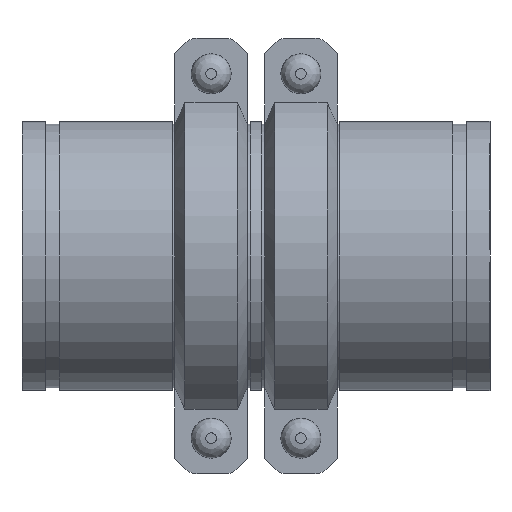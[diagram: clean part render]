
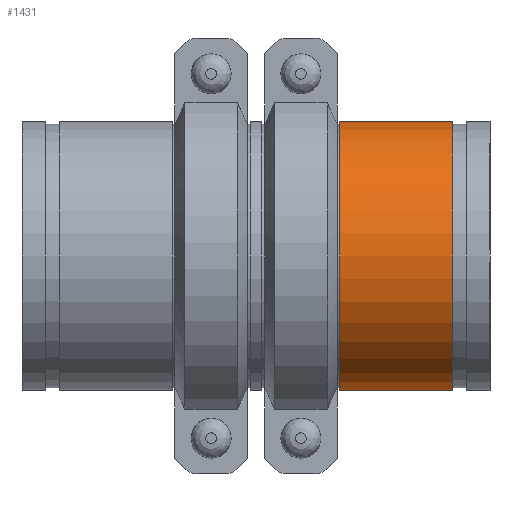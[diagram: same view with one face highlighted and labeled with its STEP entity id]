
A CAD part, front view. The second image highlights one B-rep face of the part: STEP entity #1431.
In plain terms, the highlighted cylindrical face has radius 109.537 mm (diameter 219.075 mm), a full revolution.
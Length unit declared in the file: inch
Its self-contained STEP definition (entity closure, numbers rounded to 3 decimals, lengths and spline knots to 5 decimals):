
#59=LINE('',#2295,#152);
#152=VECTOR('',#1852,4.3125);
#245=CYLINDRICAL_SURFACE('',#1638,4.3125);
#302=FACE_OUTER_BOUND('',#387,.T.);
#387=EDGE_LOOP('',(#940,#941,#942,#943,#944,#945));
#497=CIRCLE('',#1636,4.3125);
#498=CIRCLE('',#1637,4.3125);
#499=CIRCLE('',#1639,4.3125);
#500=CIRCLE('',#1640,4.3125);
#589=VERTEX_POINT('',#2286);
#590=VERTEX_POINT('',#2287);
#591=VERTEX_POINT('',#2291);
#592=VERTEX_POINT('',#2292);
#730=EDGE_CURVE('',#589,#590,#497,.T.);
#731=EDGE_CURVE('',#590,#589,#498,.T.);
#732=EDGE_CURVE('',#591,#592,#499,.T.);
#733=EDGE_CURVE('',#592,#591,#500,.T.);
#734=EDGE_CURVE('',#592,#590,#59,.T.);
#940=ORIENTED_EDGE('',*,*,#732,.F.);
#941=ORIENTED_EDGE('',*,*,#733,.F.);
#942=ORIENTED_EDGE('',*,*,#734,.T.);
#943=ORIENTED_EDGE('',*,*,#731,.T.);
#944=ORIENTED_EDGE('',*,*,#730,.T.);
#945=ORIENTED_EDGE('',*,*,#734,.F.);
#1431=ADVANCED_FACE('',(#302),#245,.T.);
#1636=AXIS2_PLACEMENT_3D('',#2288,#1842,#1843);
#1637=AXIS2_PLACEMENT_3D('',#2289,#1844,#1845);
#1638=AXIS2_PLACEMENT_3D('',#2290,#1846,#1847);
#1639=AXIS2_PLACEMENT_3D('',#2293,#1848,#1849);
#1640=AXIS2_PLACEMENT_3D('',#2294,#1850,#1851);
#1842=DIRECTION('center_axis',(-1.,0.,0.));
#1843=DIRECTION('ref_axis',(0.,0.,1.));
#1844=DIRECTION('center_axis',(-1.,0.,0.));
#1845=DIRECTION('ref_axis',(0.,0.,1.));
#1846=DIRECTION('center_axis',(-1.,0.,0.));
#1847=DIRECTION('ref_axis',(0.,1.,0.));
#1848=DIRECTION('center_axis',(-1.,0.,0.));
#1849=DIRECTION('ref_axis',(0.,0.,1.));
#1850=DIRECTION('center_axis',(-1.,0.,0.));
#1851=DIRECTION('ref_axis',(0.,0.,1.));
#1852=DIRECTION('',(1.,0.,0.));
#2286=CARTESIAN_POINT('',(1.812,4.3125,0.));
#2287=CARTESIAN_POINT('',(1.812,-4.3125,0.));
#2288=CARTESIAN_POINT('Origin',(1.812,0.,0.));
#2289=CARTESIAN_POINT('Origin',(1.812,0.,0.));
#2290=CARTESIAN_POINT('Origin',(0.,0.,
0.));
#2291=CARTESIAN_POINT('',(-1.812,4.3125,0.));
#2292=CARTESIAN_POINT('',(-1.812,-4.3125,0.));
#2293=CARTESIAN_POINT('Origin',(-1.812,0.,0.));
#2294=CARTESIAN_POINT('Origin',(-1.812,0.,0.));
#2295=CARTESIAN_POINT('',(0.,-4.3125,0.));
